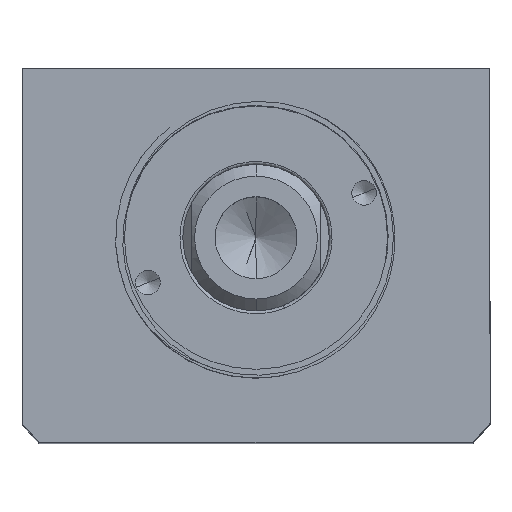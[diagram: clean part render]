
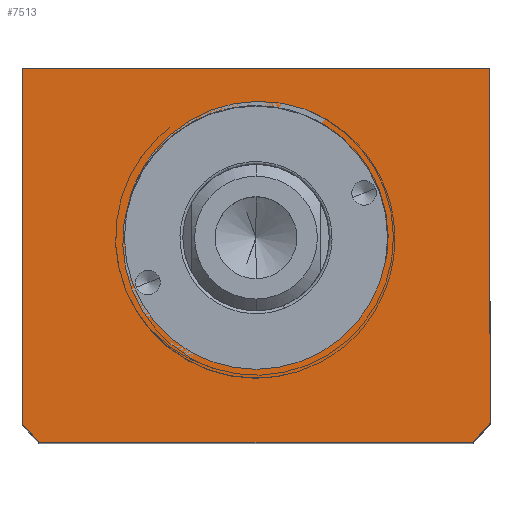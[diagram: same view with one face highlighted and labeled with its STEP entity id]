
A CAD part, top view. The second image highlights one B-rep face of the part: STEP entity #7513.
In plain terms, the highlighted planar face has unit normal (0, 0, 1).
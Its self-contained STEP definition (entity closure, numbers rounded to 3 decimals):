
#46 = EDGE_LOOP ( 'NONE', ( #10676, #6790 ) ) ;
#199 = VERTEX_POINT ( 'NONE', #4705 ) ;
#220 = CARTESIAN_POINT ( 'NONE',  ( -40., -32., 145. ) ) ;
#253 = DIRECTION ( 'NONE',  ( 1., 0., 0. ) ) ;
#451 = EDGE_CURVE ( 'NONE', #6642, #5351, #7619, .T. ) ;
#689 = CIRCLE ( 'NONE', #9922, 51. ) ;
#803 = DIRECTION ( 'NONE',  ( 1., 0., 0. ) ) ;
#935 = CARTESIAN_POINT ( 'NONE',  ( 0., 3., 145. ) ) ;
#1201 = PLANE ( 'NONE',  #5832 ) ;
#1270 = DIRECTION ( 'NONE',  ( 1., 0., 0. ) ) ;
#1310 = FACE_OUTER_BOUND ( 'NONE', #8398, .T. ) ;
#1340 = DIRECTION ( 'NONE',  ( 0., 0., 1. ) ) ;
#1415 = ORIENTED_EDGE ( 'NONE', *, *, #5162, .T. ) ;
#1775 = DIRECTION ( 'NONE',  ( 1., 0., 0. ) ) ;
#2066 = LINE ( 'NONE', #9050, #3765 ) ;
#2116 = AXIS2_PLACEMENT_3D ( 'NONE', #7983, #2997, #8811 ) ;
#2921 = VECTOR ( 'NONE', #253, 1000. ) ;
#2997 = DIRECTION ( 'NONE',  ( 0., 0., 1. ) ) ;
#3048 = VECTOR ( 'NONE', #8761, 1000. ) ;
#3451 = CARTESIAN_POINT ( 'NONE',  ( -22.5, 3., 145. ) ) ;
#3532 = CARTESIAN_POINT ( 'NONE',  ( -40., -28.639, 145. ) ) ;
#3546 = FACE_BOUND ( 'NONE', #46, .T. ) ;
#3694 = CARTESIAN_POINT ( 'NONE',  ( 40., 32., 145. ) ) ;
#3758 = VERTEX_POINT ( 'NONE', #3532 ) ;
#3765 = VECTOR ( 'NONE', #9867, 1000. ) ;
#3902 = CIRCLE ( 'NONE', #8258, 22.5 ) ;
#3925 = EDGE_CURVE ( 'NONE', #4970, #3758, #10175, .T. ) ;
#4094 = CARTESIAN_POINT ( 'NONE',  ( 37.094, -32., 145. ) ) ;
#4221 = CIRCLE ( 'NONE', #6705, 22.5 ) ;
#4499 = CARTESIAN_POINT ( 'NONE',  ( -40., 32., 145. ) ) ;
#4588 = CARTESIAN_POINT ( 'NONE',  ( 0., 0., 145. ) ) ;
#4705 = CARTESIAN_POINT ( 'NONE',  ( 40., -28.639, 145. ) ) ;
#4970 = VERTEX_POINT ( 'NONE', #6931 ) ;
#5162 = EDGE_CURVE ( 'NONE', #3758, #6642, #6531, .T. ) ;
#5351 = VERTEX_POINT ( 'NONE', #4094 ) ;
#5792 = DIRECTION ( 'NONE',  ( 0., 0., 1. ) ) ;
#5832 = AXIS2_PLACEMENT_3D ( 'NONE', #4588, #6265, #1270 ) ;
#5975 = ORIENTED_EDGE ( 'NONE', *, *, #7267, .T. ) ;
#6097 = ORIENTED_EDGE ( 'NONE', *, *, #451, .T. ) ;
#6132 = EDGE_CURVE ( 'NONE', #9335, #7321, #4221, .T. ) ;
#6265 = DIRECTION ( 'NONE',  ( 0., 0., 1. ) ) ;
#6330 = CARTESIAN_POINT ( 'NONE',  ( 0., 3., 145. ) ) ;
#6531 = CIRCLE ( 'NONE', #2116, 51. ) ;
#6642 = VERTEX_POINT ( 'NONE', #8580 ) ;
#6705 = AXIS2_PLACEMENT_3D ( 'NONE', #6330, #1340, #7175 ) ;
#6747 = DIRECTION ( 'NONE',  ( 0., 0., 1. ) ) ;
#6756 = ORIENTED_EDGE ( 'NONE', *, *, #7624, .T. ) ;
#6790 = ORIENTED_EDGE ( 'NONE', *, *, #9478, .F. ) ;
#6931 = CARTESIAN_POINT ( 'NONE',  ( -40., 32., 145. ) ) ;
#7175 = DIRECTION ( 'NONE',  ( 1., 0., 0. ) ) ;
#7211 = DIRECTION ( 'NONE',  ( -1., 0., 0. ) ) ;
#7267 = EDGE_CURVE ( 'NONE', #5351, #199, #689, .T. ) ;
#7321 = VERTEX_POINT ( 'NONE', #3451 ) ;
#7458 = VERTEX_POINT ( 'NONE', #3694 ) ;
#7513 = ADVANCED_FACE ( 'NONE', ( #3546, #1310 ), #1201, .T. ) ;
#7558 = ORIENTED_EDGE ( 'NONE', *, *, #3925, .T. ) ;
#7619 = LINE ( 'NONE', #220, #2921 ) ;
#7624 = EDGE_CURVE ( 'NONE', #7458, #4970, #10540, .T. ) ;
#7983 = CARTESIAN_POINT ( 'NONE',  ( 0., 3., 145. ) ) ;
#8057 = CARTESIAN_POINT ( 'NONE',  ( -40., 32., 145. ) ) ;
#8258 = AXIS2_PLACEMENT_3D ( 'NONE', #10736, #5792, #803 ) ;
#8398 = EDGE_LOOP ( 'NONE', ( #7558, #1415, #6097, #5975, #8459, #6756 ) ) ;
#8459 = ORIENTED_EDGE ( 'NONE', *, *, #8824, .T. ) ;
#8580 = CARTESIAN_POINT ( 'NONE',  ( -37.094, -32., 145. ) ) ;
#8611 = VECTOR ( 'NONE', #7211, 1000. ) ;
#8761 = DIRECTION ( 'NONE',  ( 0., -1., 0. ) ) ;
#8811 = DIRECTION ( 'NONE',  ( 1., 0., 0. ) ) ;
#8824 = EDGE_CURVE ( 'NONE', #199, #7458, #2066, .T. ) ;
#8999 = CARTESIAN_POINT ( 'NONE',  ( 22.5, 3., 145. ) ) ;
#9050 = CARTESIAN_POINT ( 'NONE',  ( 40., 32., 145. ) ) ;
#9335 = VERTEX_POINT ( 'NONE', #8999 ) ;
#9478 = EDGE_CURVE ( 'NONE', #7321, #9335, #3902, .T. ) ;
#9867 = DIRECTION ( 'NONE',  ( 0., 1., 0. ) ) ;
#9922 = AXIS2_PLACEMENT_3D ( 'NONE', #935, #6747, #1775 ) ;
#10175 = LINE ( 'NONE', #4499, #3048 ) ;
#10540 = LINE ( 'NONE', #8057, #8611 ) ;
#10676 = ORIENTED_EDGE ( 'NONE', *, *, #6132, .F. ) ;
#10736 = CARTESIAN_POINT ( 'NONE',  ( 0., 3., 145. ) ) ;
